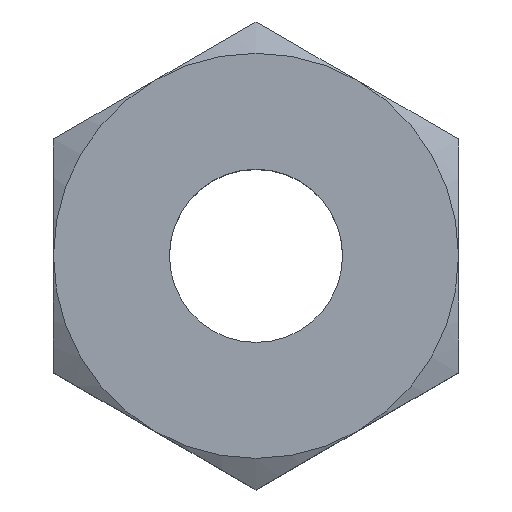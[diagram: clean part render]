
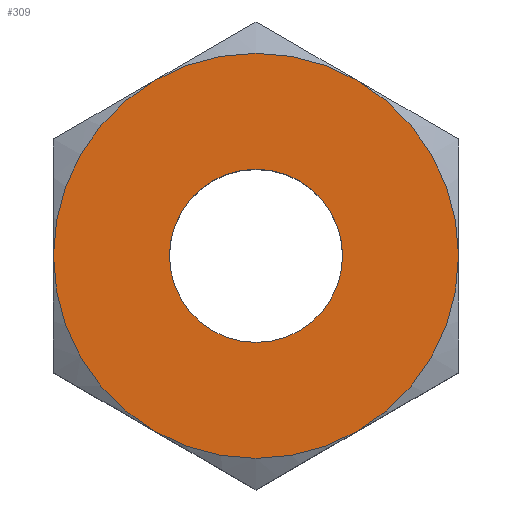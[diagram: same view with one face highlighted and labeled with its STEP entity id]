
A CAD part, top view. The second image highlights one B-rep face of the part: STEP entity #309.
In plain terms, the highlighted planar face has unit normal (0, 0, 1).
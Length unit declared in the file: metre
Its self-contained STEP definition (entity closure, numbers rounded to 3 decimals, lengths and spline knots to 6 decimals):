
#142=ORIENTED_EDGE('',*,*,#192,.F.);
#143=ORIENTED_EDGE('',*,*,#187,.T.);
#144=ORIENTED_EDGE('',*,*,#186,.T.);
#145=ORIENTED_EDGE('',*,*,#191,.T.);
#146=ORIENTED_EDGE('',*,*,#190,.T.);
#147=ORIENTED_EDGE('',*,*,#189,.T.);
#148=ORIENTED_EDGE('',*,*,#188,.T.);
#186=EDGE_CURVE('',#217,#204,#226,.T.);
#187=EDGE_CURVE('',#216,#217,#227,.T.);
#188=EDGE_CURVE('',#213,#216,#228,.T.);
#189=EDGE_CURVE('',#210,#213,#229,.T.);
#190=EDGE_CURVE('',#207,#210,#230,.T.);
#191=EDGE_CURVE('',#204,#207,#231,.T.);
#192=EDGE_CURVE('',#218,#218,#232,.T.);
#204=VERTEX_POINT('',#471);
#207=VERTEX_POINT('',#492);
#210=VERTEX_POINT('',#513);
#213=VERTEX_POINT('',#534);
#216=VERTEX_POINT('',#555);
#217=VERTEX_POINT('',#573);
#218=VERTEX_POINT('',#598);
#226=CIRCLE('',#338,0.00275);
#227=CIRCLE('',#340,0.00275);
#228=CIRCLE('',#342,0.00275);
#229=CIRCLE('',#344,0.00275);
#230=CIRCLE('',#346,0.00275);
#231=CIRCLE('',#348,0.00275);
#232=CIRCLE('',#356,0.001175);
#255=EDGE_LOOP('',(#142));
#256=EDGE_LOOP('',(#143,#144,#145,#146,#147,#148));
#279=FACE_BOUND('',#255,.T.);
#280=FACE_BOUND('',#256,.T.);
#288=PLANE('',#357);
#309=ADVANCED_FACE('',(#279,#280),#288,.T.);
#338=AXIS2_PLACEMENT_3D('',#579,#396,#397);
#340=AXIS2_PLACEMENT_3D('',#581,#400,#401);
#342=AXIS2_PLACEMENT_3D('',#583,#404,#405);
#344=AXIS2_PLACEMENT_3D('',#585,#408,#409);
#346=AXIS2_PLACEMENT_3D('',#587,#412,#413);
#348=AXIS2_PLACEMENT_3D('',#589,#416,#417);
#356=AXIS2_PLACEMENT_3D('',#597,#432,#433);
#357=AXIS2_PLACEMENT_3D('',#599,#434,#435);
#396=DIRECTION('',(0.,0.,1.));
#397=DIRECTION('',(1.,0.,0.));
#400=DIRECTION('',(0.,0.,1.));
#401=DIRECTION('',(1.,0.,0.));
#404=DIRECTION('',(0.,0.,1.));
#405=DIRECTION('',(1.,0.,0.));
#408=DIRECTION('',(0.,0.,1.));
#409=DIRECTION('',(1.,0.,0.));
#412=DIRECTION('',(0.,0.,1.));
#413=DIRECTION('',(1.,0.,0.));
#416=DIRECTION('',(0.,0.,1.));
#417=DIRECTION('',(1.,0.,0.));
#432=DIRECTION('',(0.,0.,1.));
#433=DIRECTION('',(1.,0.,0.));
#434=DIRECTION('',(0.,0.,1.));
#435=DIRECTION('',(1.,0.,0.));
#471=CARTESIAN_POINT('',(0.001375,0.002382,0.));
#492=CARTESIAN_POINT('',(-0.001375,0.002382,0.));
#513=CARTESIAN_POINT('',(-0.00275,0.,0.));
#534=CARTESIAN_POINT('',(-0.001375,-0.002382,0.));
#555=CARTESIAN_POINT('',(0.001375,-0.002382,0.));
#573=CARTESIAN_POINT('',(0.00275,0.,0.));
#579=CARTESIAN_POINT('',(0.,0.,0.));
#581=CARTESIAN_POINT('',(0.,0.,0.));
#583=CARTESIAN_POINT('',(0.,0.,0.));
#585=CARTESIAN_POINT('',(0.,0.,0.));
#587=CARTESIAN_POINT('',(0.,0.,0.));
#589=CARTESIAN_POINT('',(0.,0.,0.));
#597=CARTESIAN_POINT('',(0.,0.,0.));
#598=CARTESIAN_POINT('',(0.001175,0.,0.));
#599=CARTESIAN_POINT('',(0.,0.,0.));
